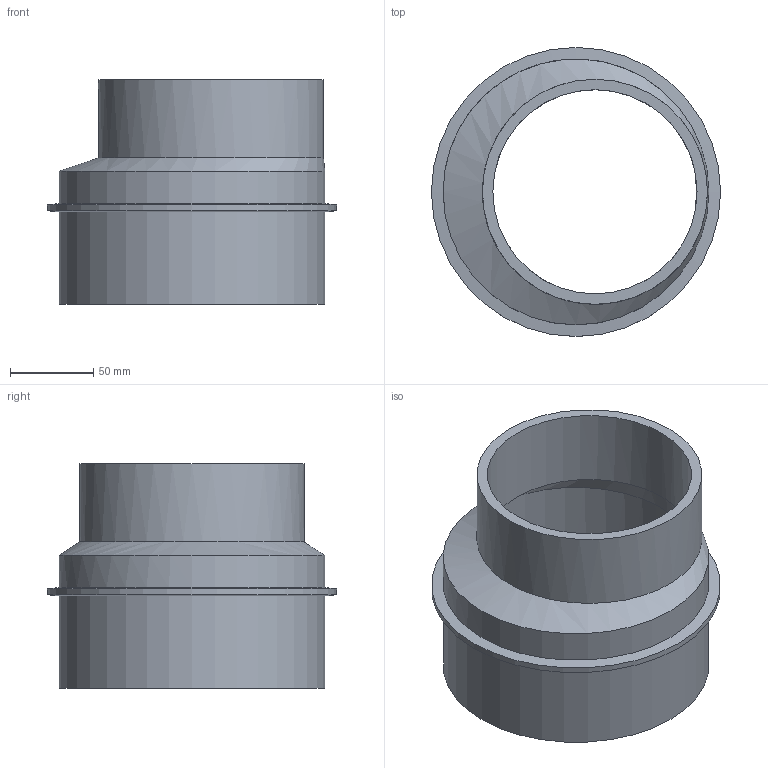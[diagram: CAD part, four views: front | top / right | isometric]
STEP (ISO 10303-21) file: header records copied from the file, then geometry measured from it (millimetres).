
FILE_DESCRIPTION(/* description */ (''),/* implementation_level */ '2;1');
FILE_NAME(/* name */ 'Z:\Geberit\Export\NewStep\Reduktion_Ipart\stp\315126.stp',/* time_stamp */ '2014-04-03T18:14:48+02:00',/* author */ ('nelson'),/* organization */ (''),/* preprocessor_version */ 'ST-DEVELOPER v15.2',/* originating_system */ 'Autodesk Inventor 2014',/* authorisation */ '');
FILE_SCHEMA (('AUTOMOTIVE_DESIGN { 1 0 10303 214 3 1 1 }'));
Length unit declared in the file: millimetre
Products named in the file (1): 315126
Bounding box: 174 x 174 x 135 mm (x, y, z)
Volume: 440901.1 mm3; surface area: 141179.9 mm2
Topology: 1 solids, 1 shells, 12 faces, 32 edges, 22 vertices
Faces by surface type: cylinder 6, cone 2, bspline 2, plane 2
Full cylindrical faces by diameter (mm): 122.95 x1, 135.45 x1, 145.3 x1, 160 x2, 174 x1
Entity records: 375 total; most frequent: CARTESIAN_POINT 87, DIRECTION 58, ORIENTED_EDGE 40, AXIS2_PLACEMENT_3D 29, EDGE_LOOP 22, EDGE_CURVE 20, CIRCLE 18, VERTEX_POINT 18
